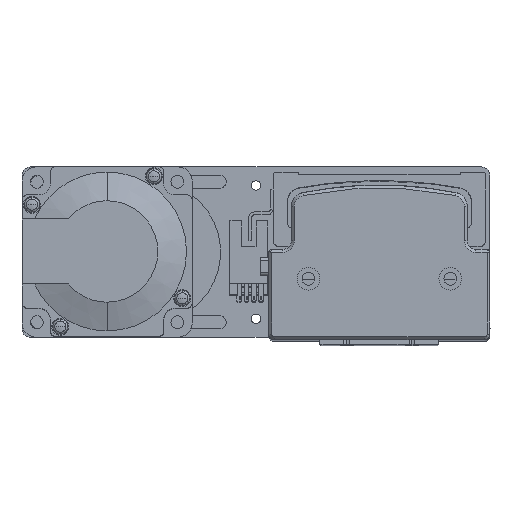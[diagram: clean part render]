
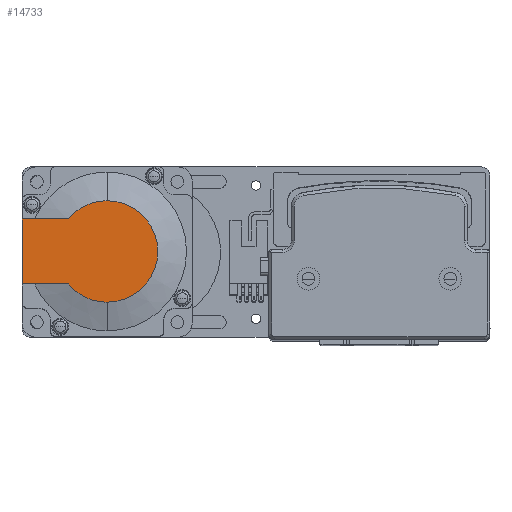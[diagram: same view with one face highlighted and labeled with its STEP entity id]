
A CAD part, top view. The second image highlights one B-rep face of the part: STEP entity #14733.
In plain terms, the highlighted planar face has unit normal (0, 0, 1) as drawn and (-1, 0, 0) by its records, which use the part's own axes.
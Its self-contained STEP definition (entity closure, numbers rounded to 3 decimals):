
#1018 = EDGE_CURVE ( 'NONE', #33408, #20473, #26303, .T. ) ;
#1188 = DIRECTION ( 'NONE',  ( 0., -1., 0. ) ) ;
#2764 = DIRECTION ( 'NONE',  ( -1., 0., 0. ) ) ;
#2802 = VERTEX_POINT ( 'NONE', #43076 ) ;
#3072 = ORIENTED_EDGE ( 'NONE', *, *, #1018, .F. ) ;
#3128 = CARTESIAN_POINT ( 'NONE',  ( -118.5, 30., 25. ) ) ;
#4281 = EDGE_CURVE ( 'NONE', #5716, #2802, #41595, .T. ) ;
#5554 = EDGE_LOOP ( 'NONE', ( #45739, #9729, #9586, #36604, #8202, #3072 ) ) ;
#5716 = VERTEX_POINT ( 'NONE', #30518 ) ;
#6821 = VECTOR ( 'NONE', #45562, 1000. ) ;
#8202 = ORIENTED_EDGE ( 'NONE', *, *, #39841, .F. ) ;
#9200 = DIRECTION ( 'NONE',  ( -1., 0., 0. ) ) ;
#9586 = ORIENTED_EDGE ( 'NONE', *, *, #4281, .T. ) ;
#9729 = ORIENTED_EDGE ( 'NONE', *, *, #29272, .T. ) ;
#9970 = PLANE ( 'NONE',  #26563 ) ;
#10845 = DIRECTION ( 'NONE',  ( -1., 0., 0. ) ) ;
#12222 = FACE_OUTER_BOUND ( 'NONE', #5554, .T. ) ;
#13072 = CARTESIAN_POINT ( 'NONE',  ( -118.5, 30., -11.45 ) ) ;
#14501 = DIRECTION ( 'NONE',  ( -1., 0., 0. ) ) ;
#14622 = EDGE_CURVE ( 'NONE', #2802, #40279, #40481, .T. ) ;
#14733 = ADVANCED_FACE ( 'NONE', ( #12222 ), #9970, .T. ) ;
#16599 = VECTOR ( 'NONE', #46561, 1000. ) ;
#17962 = LINE ( 'NONE', #19424, #45635 ) ;
#19424 = CARTESIAN_POINT ( 'NONE',  ( -118.5, -8.941, -11.45 ) ) ;
#20145 = AXIS2_PLACEMENT_3D ( 'NONE', #30942, #9200, #34539 ) ;
#20473 = VERTEX_POINT ( 'NONE', #38313 ) ;
#21862 = CARTESIAN_POINT ( 'NONE',  ( -118.5, 13.735, -11.45 ) ) ;
#23889 = AXIS2_PLACEMENT_3D ( 'NONE', #32575, #10845, #36184 ) ;
#24638 = CARTESIAN_POINT ( 'NONE',  ( -118.5, -8.941, 0. ) ) ;
#25926 = EDGE_CURVE ( 'NONE', #33408, #34245, #17962, .T. ) ;
#26303 = LINE ( 'NONE', #3128, #16599 ) ;
#26563 = AXIS2_PLACEMENT_3D ( 'NONE', #24638, #2764, #28284 ) ;
#28284 = DIRECTION ( 'NONE',  ( 0., 0., 1. ) ) ;
#29272 = EDGE_CURVE ( 'NONE', #34245, #5716, #37587, .T. ) ;
#30102 = CARTESIAN_POINT ( 'NONE',  ( -118.5, 13.735, 11.45 ) ) ;
#30518 = CARTESIAN_POINT ( 'NONE',  ( -118.5, 0., -17.881 ) ) ;
#30942 = CARTESIAN_POINT ( 'NONE',  ( -118.5, 0., 0. ) ) ;
#32575 = CARTESIAN_POINT ( 'NONE',  ( -118.5, 0., 0. ) ) ;
#33408 = VERTEX_POINT ( 'NONE', #13072 ) ;
#34245 = VERTEX_POINT ( 'NONE', #21862 ) ;
#34539 = DIRECTION ( 'NONE',  ( 0., 0., -1. ) ) ;
#35309 = AXIS2_PLACEMENT_3D ( 'NONE', #36169, #14501, #39764 ) ;
#35762 = LINE ( 'NONE', #41940, #6821 ) ;
#36169 = CARTESIAN_POINT ( 'NONE',  ( -118.5, 0., 0. ) ) ;
#36184 = DIRECTION ( 'NONE',  ( 0., 0., -1. ) ) ;
#36604 = ORIENTED_EDGE ( 'NONE', *, *, #14622, .T. ) ;
#37587 = CIRCLE ( 'NONE', #23889, 17.881 ) ;
#38313 = CARTESIAN_POINT ( 'NONE',  ( -118.5, 30., 11.45 ) ) ;
#39764 = DIRECTION ( 'NONE',  ( 0., 0., -1. ) ) ;
#39841 = EDGE_CURVE ( 'NONE', #20473, #40279, #35762, .T. ) ;
#40279 = VERTEX_POINT ( 'NONE', #30102 ) ;
#40481 = CIRCLE ( 'NONE', #20145, 17.881 ) ;
#41595 = CIRCLE ( 'NONE', #35309, 17.881 ) ;
#41940 = CARTESIAN_POINT ( 'NONE',  ( -118.5, 0., 11.45 ) ) ;
#43076 = CARTESIAN_POINT ( 'NONE',  ( -118.5, 0., 17.881 ) ) ;
#45562 = DIRECTION ( 'NONE',  ( 0., -1., 0. ) ) ;
#45635 = VECTOR ( 'NONE', #1188, 1000. ) ;
#45739 = ORIENTED_EDGE ( 'NONE', *, *, #25926, .T. ) ;
#46561 = DIRECTION ( 'NONE',  ( 0., 0., 1. ) ) ;
